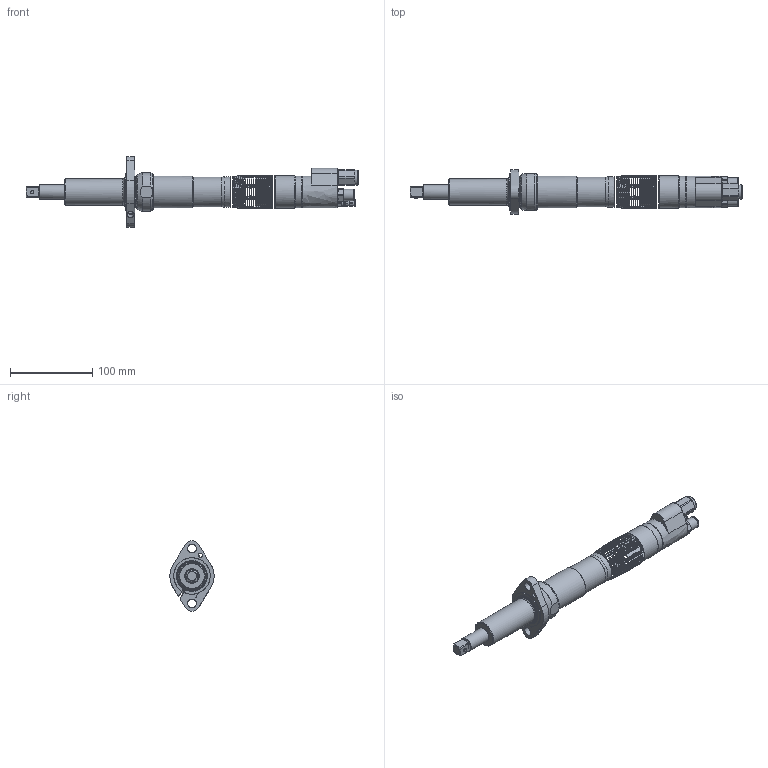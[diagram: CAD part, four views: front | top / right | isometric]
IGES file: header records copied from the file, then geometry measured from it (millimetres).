
Global section: file name: C:\Users\tbok\Documents\Drawings_temp\QA4ASRD046NF41S08.igs; native system: NX V4.0; preprocessor: UGS NX IGES V4.0; date: 20170302.090954; units: millimetre
Bounding box: 404.84 x 53.95 x 85.7 mm (x, y, z)
Surface area: 62280.4 mm2 (no closed solid volume)
Topology: 0 solids, 0 shells, 2469 faces, 14335 edges, 14269 vertices
Faces by surface type: bspline 2469
